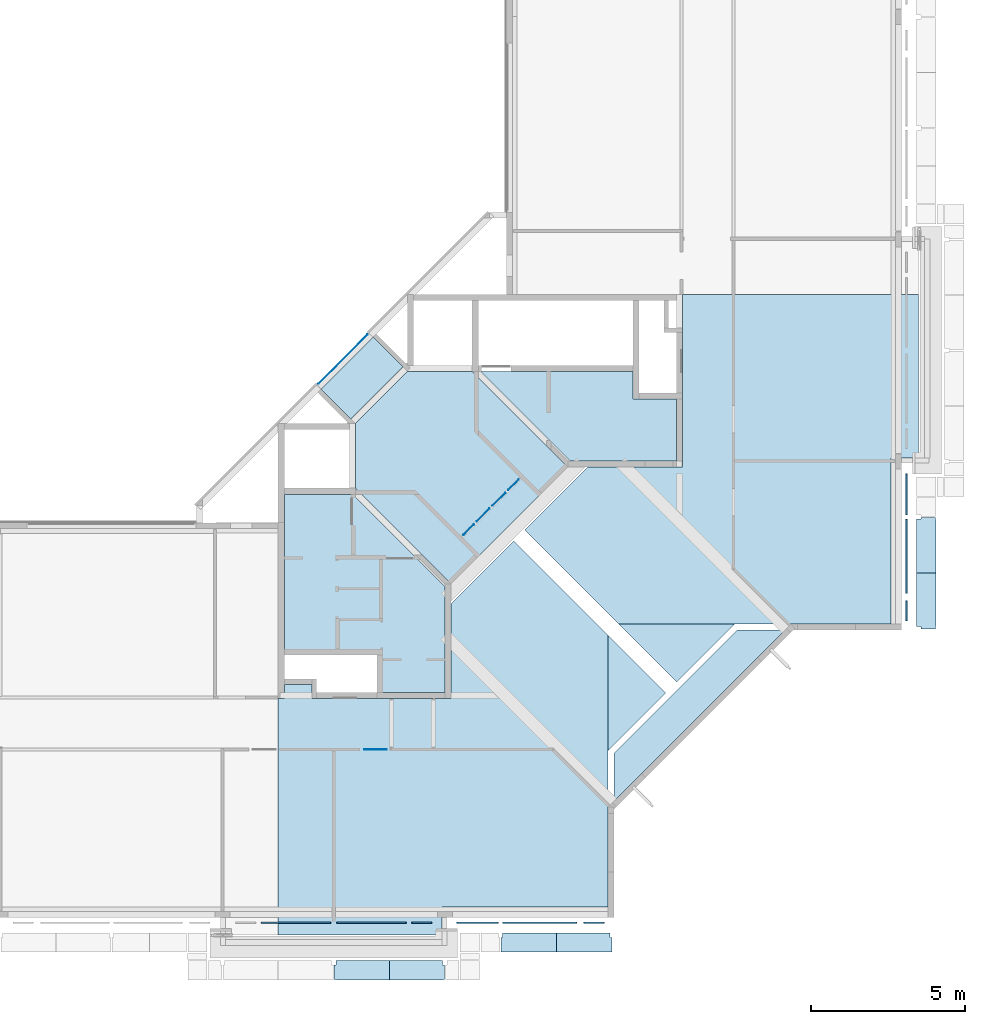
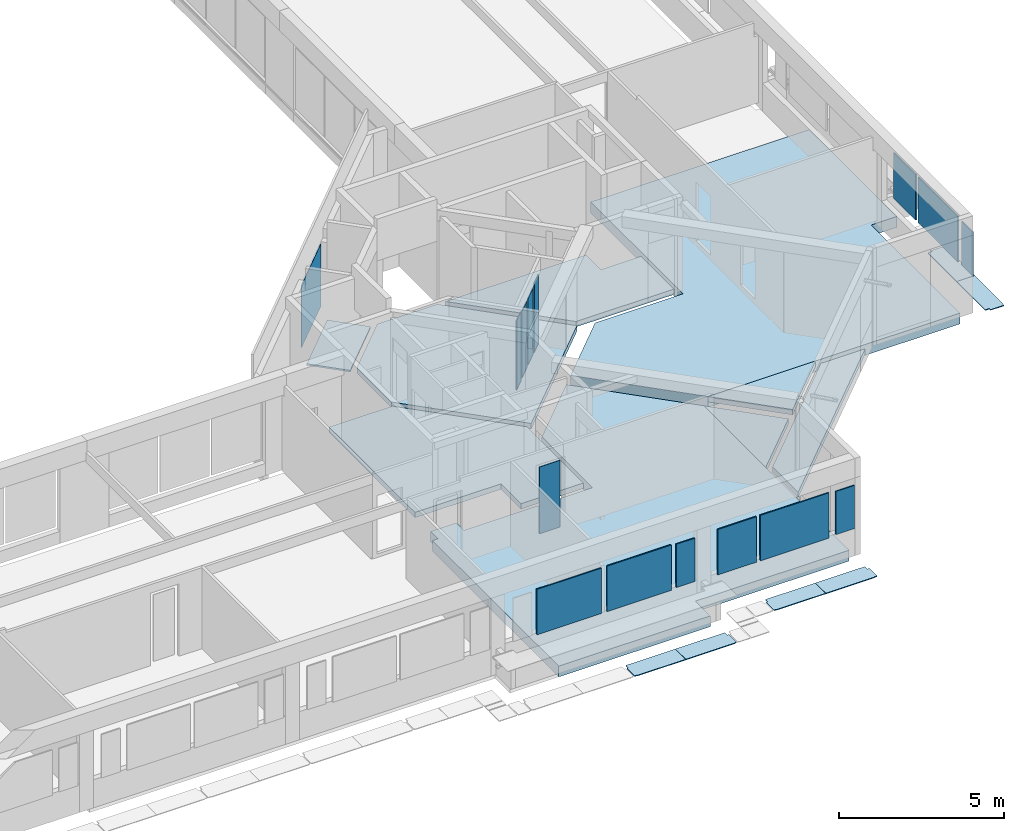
# One storey, part 4 of 38: 15 plates, 15 slabs.
"""IFC4X3_ADD2 building model written with IfcOpenShell, lengths in millimetres."""

from ifc_helpers import new_model, si_unit, direction, frame, frame_2d, origin_with_axes, origin_2d_with_axis, place, context, subcontext, project, spatial, polyline, rectangle, outline, extrude, source, transform, mapped, material, type_object, element, save


model = new_model("IFC4X3_ADD2")

# Units and contexts
model_context = context("Model", 3, precision=1e-05, world=origin_with_axes(), true_north=direction((0.0, 1.0)))
body_context = subcontext(model_context, "Body", "Model", "MODEL_VIEW")
ifc_project = project(units=[si_unit("LENGTHUNIT", "METRE", prefix="MILLI"), si_unit("AREAUNIT", "SQUARE_METRE"), si_unit("VOLUMEUNIT", "CUBIC_METRE"), si_unit("PLANEANGLEUNIT", "RADIAN"), si_unit("TIMEUNIT", "SECOND"), si_unit("MASSUNIT", "GRAM")], contexts=[model_context])

# Site, building, storey
site_placement = place(None, origin_with_axes())
site = spatial("IfcSite", under=ifc_project, at=site_placement, Name="Site", CompositionType="ELEMENT")
building_placement = place(site_placement, origin_with_axes())
building = spatial("IfcBuilding", under=site, at=building_placement, Name="IFC Building Story")
storey_placement = place(building_placement, frame((0.0, 0.0, 10800.0), z_axis=(0.0, 0.0, 1.0), x_axis=(1.0, 0.0, 0.0)))
storey = spatial("IfcBuildingStorey", under=building, at=storey_placement, Name="030", Elevation=10800.0)

# Slabs
ifc_material_1 = material(Name="BB_Beton_Bestaand")
slab_type_1 = type_object("IfcSlabType", Name="BB_Beton_Bestaand 200", PredefinedType="FLOOR", material=ifc_material_1)
slab_1_placement = place(storey_placement, frame((-13532.15728752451, 14700.0, -280.0), z_axis=(0.0, 0.0, 1.0), x_axis=(1.0, 0.0, 0.0)))
element("IfcSlab", 1, at=slab_1_placement, inside=storey, type_object=slab_type_1, Name="Floor:BB_XX_Vloer uit beton, 200 mm", ObjectType="Floor:BB_XX_Vloer uit beton, 200 mm", PredefinedType="FLOOR", context=body_context, shape_type="SweptSolid", body=[
    extrude(outline(polyline([(694.0524291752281, 366.6666666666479), (2094.052429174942, 366.6666666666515), (2094.052429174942, -1633.333333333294), (-1338.104858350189, -1633.333333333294), (-4238.104858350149, 1266.666666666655), (694.0524291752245, 1266.666666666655), (694.0524291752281, 366.6666666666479)])), frame((4238.104858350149, 1633.333333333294, 0.0), z_axis=(0.0, 0.0, 1.0), x_axis=(1.0, 0.0, 0.0)), (0.0, 0.0, 1.0), 200.0),
])
slab_2_placement = place(storey_placement, frame((-19899.99999999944, 13614.99999999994, -280.0), z_axis=(0.0, 0.0, 1.0), x_axis=(0.0, -1.0, 0.0)))
element("IfcSlab", 2, at=slab_2_placement, inside=storey, type_object=slab_type_1, Name="Floor:BB_XX_Vloer uit beton, 200 mm", ObjectType="Floor:BB_XX_Vloer uit beton, 200 mm", PredefinedType="FLOOR", context=body_context, shape_type="SweptSolid", body=[
    extrude(outline(polyline([(2668.879612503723, 347.5489589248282), (1458.879612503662, 347.5489589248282), (1458.879612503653, -2662.451041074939), (-3746.120387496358, -2662.451041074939), (-3746.120387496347, -445.293753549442), (-763.2776750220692, 2537.54895892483), (2668.879612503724, 2537.54895892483), (2668.879612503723, 347.5489589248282)])), frame((3746.120387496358, 2662.451041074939, 0.0), z_axis=(0.0, 0.0, 1.0), x_axis=(1.0, 0.0, 0.0)), (0.0, 0.0, 1.0), 200.0),
])
slab_3_placement = place(storey_placement, frame((-4448.847763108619, 10001.15223689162, -400.0), z_axis=(0.0, 0.0, 1.0), x_axis=(-0.7071067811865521, -0.707106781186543, 0.0)))
element("IfcSlab", 3, at=slab_3_placement, inside=storey, type_object=slab_type_1, Name="Floor:BB_XX_Vloer uit beton, 200 mm", ObjectType="Floor:BB_XX_Vloer uit beton, 200 mm", PredefinedType="FLOOR", context=body_context, shape_type="SweptSolid", body=[
    extrude(outline(polyline([(-2828.427124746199, -548.8225099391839), (-3926.072144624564, 548.8225099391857), (3926.072144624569, 548.8225099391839), (2828.427124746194, -548.8225099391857), (-2828.427124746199, -548.8225099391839)])), frame((3926.072144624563, 548.822509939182, 0.0), z_axis=(0.0, 0.0, 1.0), x_axis=(1.0, 0.0, 0.0)), (0.0, 0.0, 1.0), 200.0),
])
slab_4_placement = place(storey_placement, frame((-9415.000000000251, 9061.446609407, -400.0), z_axis=(0.0, 0.0, 1.0), x_axis=(0.0, -1.0, 0.0)))
element("IfcSlab", 4, at=slab_4_placement, inside=storey, type_object=slab_type_1, Name="Floor:BB_XX_Vloer uit beton, 200 mm", ObjectType="Floor:BB_XX_Vloer uit beton, 200 mm", PredefinedType="FLOOR", context=body_context, shape_type="SweptSolid", body=[
    extrude(outline(polyline([(-1878.873016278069, -626.291005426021), (0.0, 1252.58201085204), (1878.87301627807, -626.291005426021), (-1878.873016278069, -626.291005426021)])), frame((1878.873016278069, 626.291005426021, 0.0), z_axis=(0.0, 0.0, 1.0), x_axis=(1.0, 0.0, 0.0)), (0.0, 0.0, 1.0), 200.0),
])
slab_5_placement = place(storey_placement, frame((-9061.4466094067, 7536.126983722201, -400.0), z_axis=(0.0, 0.0, 1.0), x_axis=(1.0, 0.0, 0.0)))
element("IfcSlab", 5, at=slab_5_placement, inside=storey, type_object=slab_type_1, Name="Floor:BB_XX_Vloer uit beton, 200 mm", ObjectType="Floor:BB_XX_Vloer uit beton, 200 mm", PredefinedType="FLOOR", context=body_context, shape_type="SweptSolid", body=[
    extrude(outline(polyline([(1878.873016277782, 626.2910054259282), (6.366462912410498e-12, -1252.58201085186), (-1878.873016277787, 626.2910054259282), (1878.873016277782, 626.2910054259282)])), frame((1878.873016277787, 1252.58201085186, 0.0), z_axis=(0.0, 0.0, 1.0), x_axis=(1.0, 0.0, 0.0)), (0.0, 0.0, 1.0), 200.0),
])
slab_type_2 = type_object("IfcSlabType", Name="BB_Beton_Bestaand 400", PredefinedType="FLOOR", material=ifc_material_1)
slab_6_placement = place(storey_placement, frame((-12112.52525316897, 9414.99999999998, -600.0), z_axis=(0.0, 0.0, 1.0), x_axis=(1.0, 0.0, 0.0)))
element("IfcSlab", 6, at=slab_6_placement, inside=storey, type_object=slab_type_2, Name="Floor:BB_XX_Vloer welfsels, 400 mm", ObjectType="Floor:BB_XX_Vloer welfsels, 400 mm", PredefinedType="FLOOR", context=body_context, shape_type="SweptSolid", body=[
    extrude(outline(polyline([(5591.952862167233, 340.9912618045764), (4691.952862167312, 340.9912618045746), (4691.952862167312, -5039.008738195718), (-4124.493747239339, -5039.008738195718), (-7175.57239100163, -1987.930094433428), (-5141.651034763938, 45.99126180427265), (-2063.047137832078, 45.99126180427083), (-2063.047137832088, 5645.991261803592), (5591.952862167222, 5645.991261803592), (5591.952862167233, 340.9912618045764)])), frame((7175.57239100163, 5039.008738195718, 0.0), z_axis=(0.0, 0.0, 1.0), x_axis=(1.0, 0.0, 0.0)), (0.0, 0.0, 1.0), 400.0),
])
slab_7_placement = place(storey_placement, frame((-20099.99999999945, 12112.52525316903, -600.0), z_axis=(0.0, 0.0, 1.0), x_axis=(0.0, -1.0, 0.0)))
element("IfcSlab", 7, at=slab_7_placement, inside=storey, type_object=slab_type_2, Name="Floor:BB_XX_Vloer welfsels, 400 mm", ObjectType="Floor:BB_XX_Vloer welfsels, 400 mm", PredefinedType="FLOOR", context=body_context, shape_type="SweptSolid", body=[
    extrude(outline(polyline([(5395.988464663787, 1196.262061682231), (6295.988464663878, 1196.262061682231), (6295.988464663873, -4108.737938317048), (-1359.011535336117, -4108.737938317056), (-1359.011535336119, -3908.737938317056), (-1809.011535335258, -3908.737938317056), (-1809.011535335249, -3008.902017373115), (-1359.148675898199, -3008.902017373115), (-1359.148675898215, 1491.262061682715), (-4437.615432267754, 1491.262061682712), (-6471.536788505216, 3525.18341792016), (-3420.458144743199, 6576.262061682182), (5395.988464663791, 6576.262061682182), (5395.988464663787, 1196.262061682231)])), frame((6471.536788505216, 4108.737938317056, 0.0), z_axis=(0.0, 0.0, 1.0), x_axis=(1.0, 0.0, 0.0)), (0.0, 0.0, 1.0), 400.0),
])

# Plates
ifc_material_2 = material(Name="BB_Glas")
shared_shape_1 = source(origin_with_axes(), body_context, "Body", "SweptSolid", [
    extrude(rectangle(XDim=1602.000000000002, YDim=652.000000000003, at=frame_2d((0.0, 0.0), x_axis=(0.0, 1.0))), frame((0.0, 0.0, -44.0), z_axis=(0.0, 0.0, 1.0), x_axis=(1.0, 0.0, 0.0)), (0.0, 0.0, 1.0), 44.0),
])
plate_1_placement = place(storey_placement, frame((-15444.0, -287.499999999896, 1765.0), z_axis=(0.0, -1.0, 0.0), x_axis=(1.0, 0.0, 0.0)))
element("IfcPlate", 8, at=plate_1_placement, inside=storey, material=ifc_material_2, Name="BB_07.06_Buitenbeglazing, rechthoekig_GMO:07.06.72#01_Drievoudige beglazing, 44 mm, A/A*/A", ObjectType="BB_07.06_Buitenbeglazing, rechthoekig_GMO:07.06.72#01_Drievoudige beglazing, 44 mm, A/A*/A", PredefinedType="USERDEFINED", context=body_context, shape_type="MappedRepresentation", body=[
    mapped(shared_shape_1, transform((0.0, 0.0, 0.0))),
])
shared_shape_2 = source(origin_with_axes(), body_context, "Body", "SweptSolid", [
    extrude(rectangle(XDim=1602.000000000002, YDim=652.0000000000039, at=frame_2d((0.0, 0.0), x_axis=(0.0, 1.0))), frame((0.0, 0.0, -44.0), z_axis=(0.0, 0.0, 1.0), x_axis=(1.0, 0.0, 0.0)), (0.0, 0.0, 1.0), 44.0),
])
plate_2_placement = place(storey_placement, frame((-9864.0, -287.499999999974, 1765.0), z_axis=(0.0, -1.0, 0.0), x_axis=(-1.0, 0.0, 0.0)))
element("IfcPlate", 9, at=plate_2_placement, inside=storey, material=ifc_material_2, Name="BB_07.06_Buitenbeglazing, rechthoekig_GMO:07.06.72#01_Drievoudige beglazing, 44 mm, A/A*/A", ObjectType="BB_07.06_Buitenbeglazing, rechthoekig_GMO:07.06.72#01_Drievoudige beglazing, 44 mm, A/A*/A", PredefinedType="USERDEFINED", context=body_context, shape_type="MappedRepresentation", body=[
    mapped(shared_shape_2, transform((0.0, 0.0, 0.0))),
])
shared_shape_3 = source(origin_with_axes(), body_context, "Body", "SweptSolid", [
    extrude(rectangle(XDim=2452.0, YDim=592.500000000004, at=frame_2d((0.0, 0.0), x_axis=(0.0, 1.0))), frame((0.0, 0.0, -17.0), z_axis=(0.0, 0.0, 1.0), x_axis=(1.0, 0.0, 0.0)), (0.0, 0.0, 1.0), 17.0),
])
for number, where, z_axis, x_axis in (
    (10, (-12950.9289310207, 13462.5206872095, 1310.0), (-0.7071067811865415, 0.7071067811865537, 0.0), (-0.7071067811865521, -0.707106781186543, 0.0)),
    (11, (-13462.5206872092, 12950.928931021, 1310.0), (-0.7071067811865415, 0.7071067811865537, 0.0), (-0.7071067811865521, -0.707106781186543, 0.0)),
):
    element("IfcPlate", number, at=place(storey_placement, frame(where, z_axis=z_axis, x_axis=x_axis)), inside=storey, material=ifc_material_2, Name="BB_10.10_Binnenbeglazing, rechthoekig_GMO:10.10.41#01_Enkelvoudige beglazing, 2B2, EI30", ObjectType="BB_10.10_Binnenbeglazing, rechthoekig_GMO:10.10.41#01_Enkelvoudige beglazing, 2B2, EI30", PredefinedType="USERDEFINED", context=body_context, shape_type="MappedRepresentation", body=[
        mapped(shared_shape_3, transform((0.0, 0.0, 0.0))),
    ])
shared_shape_4 = source(origin_with_axes(), body_context, "Body", "SweptSolid", [
    extrude(rectangle(XDim=2554.0, YDim=481.000000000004, at=frame_2d((0.0, 0.0), x_axis=(0.0, 1.0))), frame((0.0, 0.0, -17.0), z_axis=(0.0, 0.0, 1.0), x_axis=(1.0, 0.0, 0.0)), (0.0, 0.0, 1.0), 17.0),
])
for number, where, z_axis, x_axis in (
    (12, (-12480.879698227, 13932.5699200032, 1335.0), (-0.7071067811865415, 0.7071067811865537, 0.0), (-0.7071067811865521, -0.707106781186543, 0.0)),
    (13, (-13932.569920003, 12480.8796982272, 1335.0), (-0.7071067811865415, 0.7071067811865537, 0.0), (-0.7071067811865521, -0.707106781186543, 0.0)),
):
    element("IfcPlate", number, at=place(storey_placement, frame(where, z_axis=z_axis, x_axis=x_axis)), inside=storey, material=ifc_material_2, Name="BB_10.10_Binnenbeglazing, rechthoekig_GMO:10.10.41#01_Enkelvoudige beglazing, 2B2, EI30", ObjectType="BB_10.10_Binnenbeglazing, rechthoekig_GMO:10.10.41#01_Enkelvoudige beglazing, 2B2, EI30", PredefinedType="USERDEFINED", context=body_context, shape_type="MappedRepresentation", body=[
        mapped(shared_shape_4, transform((0.0, 0.0, 0.0))),
    ])
shared_shape_5 = source(origin_with_axes(), body_context, "Body", "SweptSolid", [
    extrude(rectangle(XDim=2314.0, YDim=2254.0, at=frame_2d((0.0, 0.0), x_axis=(0.0, 1.0))), frame((0.0, 0.0, -17.0), z_axis=(0.0, 0.0, 1.0), x_axis=(1.0, 0.0, 0.0)), (0.0, 0.0, 1.0), 17.0),
])
plate_3_placement = place(storey_placement, frame((-18004.4454924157, 18004.4454924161, 1455.0), z_axis=(-0.7071067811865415, 0.7071067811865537, 0.0), x_axis=(-0.7071067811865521, -0.707106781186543, 0.0)))
element("IfcPlate", 14, at=plate_3_placement, inside=storey, material=ifc_material_2, Name="BB_10.10_Binnenbeglazing, rechthoekig_GMO:10.10.42#01_Enkelvoudige beglazing, 2B2, EI60", ObjectType="BB_10.10_Binnenbeglazing, rechthoekig_GMO:10.10.42#01_Enkelvoudige beglazing, 2B2, EI60", PredefinedType="USERDEFINED", context=body_context, shape_type="MappedRepresentation", body=[
    mapped(shared_shape_5, transform((0.0, 0.0, 0.0))),
])
shared_shape_6 = source(origin_with_axes(), body_context, "Body", "SweptSolid", [
    extrude(rectangle(XDim=2402.0, YDim=1680.000000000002, at=origin_2d_with_axis()), frame((0.0, 0.0, -44.0), z_axis=(0.0, 0.0, 1.0), x_axis=(1.0, 0.0, 0.0)), (0.0, 0.0, 1.0), 44.0),
])
plate_4_placement = place(storey_placement, frame((-11629.0, -287.499999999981, 1765.0), z_axis=(0.0, -1.0, 0.0), x_axis=(-1.0, 0.0, 0.0)))
element("IfcPlate", 15, at=plate_4_placement, inside=storey, material=ifc_material_2, Name="BB_07.06_Buitenbeglazing, rechthoekig_GMO:07.06.72#01_Drievoudige beglazing, 44 mm, A/A*/A", ObjectType="BB_07.06_Buitenbeglazing, rechthoekig_GMO:07.06.72#01_Drievoudige beglazing, 44 mm, A/A*/A", PredefinedType="USERDEFINED", context=body_context, shape_type="MappedRepresentation", body=[
    mapped(shared_shape_6, transform((0.0, 0.0, 0.0))),
])
shared_shape_7 = source(origin_with_axes(), body_context, "Body", "SweptSolid", [
    extrude(rectangle(XDim=1680.000000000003, YDim=1350.000000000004, at=frame_2d((0.0, 0.0), x_axis=(0.0, 1.0))), frame((0.0, 0.0, -44.0), z_axis=(0.0, 0.0, 1.0), x_axis=(1.0, 0.0, 0.0)), (0.0, 0.0, 1.0), 44.0),
])
plate_5_placement = place(storey_placement, frame((-13645.0, -287.499999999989, 1765.0), z_axis=(0.0, -1.0, 0.0), x_axis=(-1.0, 0.0, 0.0)))
element("IfcPlate", 16, at=plate_5_placement, inside=storey, material=ifc_material_2, Name="BB_07.06_Buitenbeglazing, rechthoekig_GMO:07.06.72#01_Drievoudige beglazing, 44 mm, A/A*/A", ObjectType="BB_07.06_Buitenbeglazing, rechthoekig_GMO:07.06.72#01_Drievoudige beglazing, 44 mm, A/A*/A", PredefinedType="USERDEFINED", context=body_context, shape_type="MappedRepresentation", body=[
    mapped(shared_shape_7, transform((0.0, 0.0, 0.0))),
])
shared_shape_8 = source(origin_with_axes(), body_context, "Body", "SweptSolid", [
    extrude(rectangle(XDim=1602.000000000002, YDim=642.000000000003, at=frame_2d((0.0, 0.0), x_axis=(0.0, 1.0))), frame((0.0, 0.0, -44.0), z_axis=(0.0, 0.0, 1.0), x_axis=(1.0, 0.0, 0.0)), (0.0, 0.0, 1.0), 44.0),
])
plate_6_placement = place(storey_placement, frame((287.500000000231, 9849.0, 1765.0), z_axis=(1.0, 0.0, 0.0), x_axis=(0.0, 1.0, 0.0)))
element("IfcPlate", 17, at=plate_6_placement, inside=storey, material=ifc_material_2, Name="BB_07.06_Buitenbeglazing, rechthoekig_GMO:07.06.72#01_Drievoudige beglazing, 44 mm, A/A*/A", ObjectType="BB_07.06_Buitenbeglazing, rechthoekig_GMO:07.06.72#01_Drievoudige beglazing, 44 mm, A/A*/A", PredefinedType="USERDEFINED", context=body_context, shape_type="MappedRepresentation", body=[
    mapped(shared_shape_8, transform((0.0, 0.0, 0.0))),
])
shared_shape_9 = source(origin_with_axes(), body_context, "Body", "SweptSolid", [
    extrude(rectangle(XDim=2402.0, YDim=1680.000000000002, at=origin_2d_with_axis()), frame((0.0, 0.0, -44.0), z_axis=(0.0, 0.0, 1.0), x_axis=(1.0, 0.0, 0.0)), (0.0, 0.0, 1.0), 44.0),
])
plate_7_placement = place(storey_placement, frame((287.500000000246, 11609.0, 1765.0), z_axis=(1.0, 0.0, 0.0), x_axis=(0.0, 1.0, 0.0)))
element("IfcPlate", 18, at=plate_7_placement, inside=storey, material=ifc_material_2, Name="BB_07.06_Buitenbeglazing, rechthoekig_GMO:07.06.72#01_Drievoudige beglazing, 44 mm, A/A*/A", ObjectType="BB_07.06_Buitenbeglazing, rechthoekig_GMO:07.06.72#01_Drievoudige beglazing, 44 mm, A/A*/A", PredefinedType="USERDEFINED", context=body_context, shape_type="MappedRepresentation", body=[
    mapped(shared_shape_9, transform((0.0, 0.0, 0.0))),
])
shared_shape_10 = source(origin_with_axes(), body_context, "Body", "SweptSolid", [
    extrude(rectangle(XDim=1680.000000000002, YDim=1340.000000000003, at=frame_2d((0.0, 0.0), x_axis=(0.0, 1.0))), frame((0.0, 0.0, -44.0), z_axis=(0.0, 0.0, 1.0), x_axis=(1.0, 0.0, 0.0)), (0.0, 0.0, 1.0), 44.0),
])
plate_8_placement = place(storey_placement, frame((287.500000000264, 13620.0, 1765.0), z_axis=(1.0, 0.0, 0.0), x_axis=(0.0, 1.0, 0.0)))
element("IfcPlate", 19, at=plate_8_placement, inside=storey, material=ifc_material_2, Name="BB_07.06_Buitenbeglazing, rechthoekig_GMO:07.06.72#01_Drievoudige beglazing, 44 mm, A/A*/A", ObjectType="BB_07.06_Buitenbeglazing, rechthoekig_GMO:07.06.72#01_Drievoudige beglazing, 44 mm, A/A*/A", PredefinedType="USERDEFINED", context=body_context, shape_type="MappedRepresentation", body=[
    mapped(shared_shape_10, transform((0.0, 0.0, 0.0))),
])
shared_shape_11 = source(origin_with_axes(), body_context, "Body", "SweptSolid", [
    extrude(rectangle(XDim=2252.0, YDim=1680.000000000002, at=origin_2d_with_axis()), frame((0.0, 0.0, -44.0), z_axis=(0.0, 0.0, 1.0), x_axis=(1.0, 0.0, 0.0)), (0.0, 0.0, 1.0), 44.0),
])
for number, where, z_axis, x_axis in (
    (20, (-19526.0, -287.499999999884, 1765.0), (0.0, -1.0, 0.0), (1.0, 0.0, 0.0)),
    (21, (-17074.0, -287.499999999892, 1765.0), (0.0, -1.0, 0.0), (1.0, 0.0, 0.0)),
):
    element("IfcPlate", number, at=place(storey_placement, frame(where, z_axis=z_axis, x_axis=x_axis)), inside=storey, material=ifc_material_2, Name="BB_07.06_Buitenbeglazing, rechthoekig_GMO:07.06.72#01_Drievoudige beglazing, 44 mm, A/A*/A", ObjectType="BB_07.06_Buitenbeglazing, rechthoekig_GMO:07.06.72#01_Drievoudige beglazing, 44 mm, A/A*/A", PredefinedType="USERDEFINED", context=body_context, shape_type="MappedRepresentation", body=[
        mapped(shared_shape_11, transform((0.0, 0.0, 0.0))),
    ])
shared_shape_12 = source(origin_with_axes(), body_context, "Body", "SweptSolid", [
    extrude(rectangle(XDim=2462.0, YDim=732.000000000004, at=frame_2d((0.0, 0.0), x_axis=(0.0, 1.0))), frame((0.0, 0.0, -17.0), z_axis=(0.0, 0.0, 1.0), x_axis=(1.0, 0.0, 0.0)), (0.0, 0.0, 1.0), 17.0),
])
plate_9_placement = place(storey_placement, frame((-16950.0, 5362.0, 1315.0), z_axis=(0.0, 1.0, 0.0), x_axis=(1.0, 0.0, 0.0)))
element("IfcPlate", 22, at=plate_9_placement, inside=storey, material=ifc_material_2, Name="BB_10.10_Binnenbeglazing, rechthoekig_GMO:10.10.41#01_Enkelvoudige beglazing, 2B2, EI30", ObjectType="BB_10.10_Binnenbeglazing, rechthoekig_GMO:10.10.41#01_Enkelvoudige beglazing, 2B2, EI30", PredefinedType="USERDEFINED", context=body_context, shape_type="MappedRepresentation", body=[
    mapped(shared_shape_12, transform((0.0, 0.0, 0.0))),
])

# Slabs
slab_type_3 = type_object("IfcSlabType", Name="BB_Beton_Bestaand 210", PredefinedType="FLOOR", material=ifc_material_1)
slab_8_placement = place(storey_placement, frame((-18649.99999999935, 14864.99999999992, -290.0), z_axis=(0.0, 0.0, 1.0), x_axis=(0.7071067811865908, -0.7071067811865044, 0.0)))
element("IfcSlab", 23, at=slab_8_placement, inside=storey, type_object=slab_type_3, Name="Floor:BB_XX_Vloer welfsels, 210 mm", ObjectType="Floor:BB_XX_Vloer welfsels, 210 mm", PredefinedType="FLOOR", context=body_context, shape_type="SweptSolid", body=[
    extrude(outline(polyline([(3417.682775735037, 2676.399166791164), (3417.682775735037, -2676.399166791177), (-966.3792676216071, -2676.399166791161), (-2451.303508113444, -1191.474926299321), (-2451.303508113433, 1191.474926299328), (-966.379267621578, 2676.399166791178), (3417.682775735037, 2676.399166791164)])), frame((2451.303508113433, 2676.399166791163, 1.818989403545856e-12), z_axis=(0.0, 0.0, 1.0), x_axis=(1.0, 0.0, 0.0)), (0.0, 0.0, 1.0), 210.0),
])
ifc_material_3 = material(Name="Steel, Galvanized - looprooster")
slab_type_4 = type_object("IfcSlabType", Name="Steel, Galvanized - looprooster 30", PredefinedType="FLOOR", material=ifc_material_3)
slab_9_placement = place(storey_placement, frame((-18285.99996376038, -2119.998382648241, -350.0), z_axis=(0.0, 0.0, 1.0), x_axis=(1.0, 0.0, 0.0)))
element("IfcSlab", 24, at=slab_9_placement, inside=storey, type_object=slab_type_4, Name="Floor:GVH - Looprooster 30 mm", ObjectType="Floor:GVH - Looprooster 30 mm", PredefinedType="FLOOR", context=body_context, shape_type="SweptSolid", body=[
    extrude(outline(polyline([(-394.249464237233, -282.4992180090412), (-394.249464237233, -267.4995613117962), (-481.2494642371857, -267.4995613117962), (-481.2494642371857, 202.4983406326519), (-429.2494642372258, 202.4983406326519), (-429.2494642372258, 347.5004386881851), (1304.748392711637, 347.5004386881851), (1304.748392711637, -282.4992180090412), (-394.249464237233, -282.4992180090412)])), frame((481.2494642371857, 282.4992180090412, 0.0), z_axis=(0.0, 0.0, 1.0), x_axis=(1.0, 0.0, 0.0)), (0.0, 0.0, 1.0), 29.99999999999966),
])
slab_10_placement = place(storey_placement, frame((-16499.49796372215, -2119.998382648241, -350.0), z_axis=(0.0, 0.0, 1.0), x_axis=(1.0, 0.0, 0.0)))
element("IfcSlab", 25, at=slab_10_placement, inside=storey, type_object=slab_type_4, Name="Floor:GVH - Looprooster 30 mm", ObjectType="Floor:GVH - Looprooster 30 mm", PredefinedType="FLOOR", context=body_context, shape_type="SweptSolid", body=[
    extrude(outline(polyline([(420.1245000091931, -267.4995613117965), (420.1245000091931, -282.4992180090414), (-1312.373499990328, -282.4992180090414), (-1312.373499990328, 347.5004386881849), (420.1244999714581, 347.5004386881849), (420.1244999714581, 202.4983406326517), (472.1245000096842, 202.4983406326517), (472.1245000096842, -267.4995613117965), (420.1245000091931, -267.4995613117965)])), frame((1312.373499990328, 282.4992180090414, 0.0), z_axis=(0.0, 0.0, 1.0), x_axis=(1.0, 0.0, 0.0)), (0.0, 0.0, 1.0), 29.99999999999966),
])
slab_11_placement = place(storey_placement, frame((-12885.49996376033, -1219.998397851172, -350.0), z_axis=(0.0, 0.0, 1.0), x_axis=(1.0, 0.0, 0.0)))
element("IfcSlab", 26, at=slab_11_placement, inside=storey, type_object=slab_type_4, Name="Floor:GVH - Looprooster 30 mm", ObjectType="Floor:GVH - Looprooster 30 mm", PredefinedType="FLOOR", context=body_context, shape_type="SweptSolid", body=[
    extrude(outline(polyline([(-398.3744551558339, -282.499218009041), (-398.3744551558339, -267.499561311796), (-485.3744551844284, -267.499561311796), (-485.3744551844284, 202.4983406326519), (-433.3744914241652, 202.4983406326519), (-433.3744914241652, 347.5004386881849), (1317.123401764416, 347.5004386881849), (1317.123401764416, -282.499218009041), (-398.3744551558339, -282.499218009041)])), frame((485.3744551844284, 282.499218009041, 0.0), z_axis=(0.0, 0.0, 1.0), x_axis=(1.0, 0.0, 0.0)), (0.0, 0.0, 1.0), 29.99999999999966),
])
slab_12_placement = place(storey_placement, frame((-11081.99810681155, -1219.998397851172, -350.0), z_axis=(0.0, 0.0, 1.0), x_axis=(1.0, 0.0, 0.0)))
element("IfcSlab", 27, at=slab_12_placement, inside=storey, type_object=slab_type_4, Name="Floor:GVH - Looprooster 30 mm", ObjectType="Floor:GVH - Looprooster 30 mm", PredefinedType="FLOOR", context=body_context, shape_type="SweptSolid", body=[
    extrude(outline(polyline([(404.2496073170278, -267.499561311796), (404.2496073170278, -282.499218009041), (-1312.748535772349, -282.499218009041), (-1312.748535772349, 347.5004386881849), (419.2494642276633, 347.5004386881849), (419.2494642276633, 202.4983406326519), (489.2494642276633, 202.4983406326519), (489.2494642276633, -267.499561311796), (404.2496073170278, -267.499561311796)])), frame((1312.748535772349, 282.499218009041, 0.0), z_axis=(0.0, 0.0, 1.0), x_axis=(1.0, 0.0, 0.0)), (0.0, 0.0, 1.0), 29.99999999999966),
])
slab_13_placement = place(storey_placement, frame((589.998741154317, 12865.49996376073, -350.0), z_axis=(0.0, 0.0, 1.0), x_axis=(0.0, -1.0, 0.0)))
element("IfcSlab", 28, at=slab_13_placement, inside=storey, type_object=slab_type_4, Name="Floor:GVH - Looprooster 30 mm", ObjectType="Floor:GVH - Looprooster 30 mm", PredefinedType="FLOOR", context=body_context, shape_type="SweptSolid", body=[
    extrude(outline(polyline([(-398.374455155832, 282.4992180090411), (1317.123401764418, 282.4992180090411), (1317.123401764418, -347.5004386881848), (-433.3744914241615, -347.5004386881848), (-433.3744914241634, -202.4983406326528), (-485.3744551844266, -202.4983406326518), (-485.3744551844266, 267.4995613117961), (-398.374455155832, 267.4995613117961), (-398.374455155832, 282.4992180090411)])), frame((485.3744551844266, 347.5004386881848, 0.0), z_axis=(0.0, 0.0, 1.0), x_axis=(1.0, 0.0, 0.0)), (0.0, 0.0, 1.0), 29.99999999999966),
])
slab_14_placement = place(storey_placement, frame((589.998741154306, 11061.99810681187, -350.0), z_axis=(0.0, 0.0, 1.0), x_axis=(0.0, -1.0, 0.0)))
element("IfcSlab", 29, at=slab_14_placement, inside=storey, type_object=slab_type_4, Name="Floor:GVH - Looprooster 30 mm", ObjectType="Floor:GVH - Looprooster 30 mm", PredefinedType="FLOOR", context=body_context, shape_type="SweptSolid", body=[
    extrude(outline(polyline([(489.2494642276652, -202.4983406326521), (419.2494642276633, -202.4983406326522), (419.2494642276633, -347.5004386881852), (-1312.748535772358, -347.5004386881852), (-1312.748535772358, 282.4992180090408), (404.2496073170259, 282.4992180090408), (404.2496073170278, 267.4995613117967), (489.2494642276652, 267.4995613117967), (489.2494642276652, -202.4983406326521)])), frame((1312.748535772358, 347.5004386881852, 0.0), z_axis=(0.0, 0.0, 1.0), x_axis=(1.0, 0.0, 0.0)), (0.0, 0.0, 1.0), 29.99999999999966),
])
slab_type_5 = type_object("IfcSlabType", Name="BB_Beton_Bestaand 60", PredefinedType="FLOOR", material=ifc_material_1)
slab_15_placement = place(storey_placement, frame((-17017.26073923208, 18718.98569550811, -280.0), z_axis=(0.0, 0.0, 1.0), x_axis=(-0.7069491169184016, -0.7072644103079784, 0.0)))
element("IfcSlab", 30, at=slab_15_placement, inside=storey, type_object=slab_type_5, Name="Floor:BB_XX_Vloer uit beton, 60 mm", ObjectType="Floor:BB_XX_Vloer uit beton, 60 mm", PredefinedType="FLOOR", context=body_context, shape_type="SweptSolid", body=[
    extrude(outline(polyline([(1199.753190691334, 682.5937516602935), (1199.514889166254, -682.8031227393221), (-1199.753154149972, -682.3843805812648), (-1199.514925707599, 682.5937516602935), (1199.753190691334, 682.5937516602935)])), frame((1199.753154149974, 682.8031227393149, 0.0), z_axis=(0.0, 0.0, 1.0), x_axis=(1.0, 0.0, 0.0)), (0.0, 0.0, 1.0), 59.99999999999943),
])

save(model, "model.ifc")
